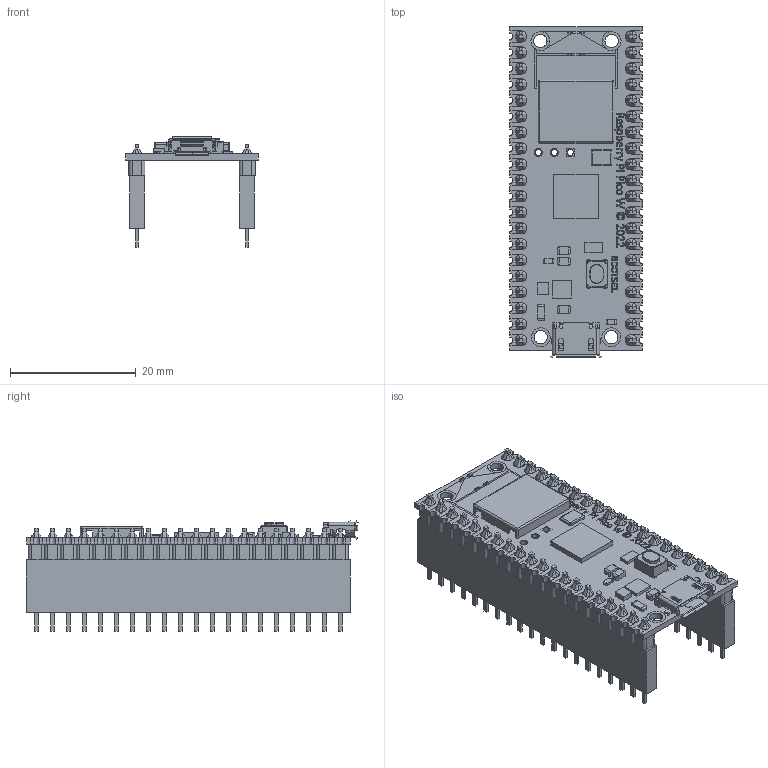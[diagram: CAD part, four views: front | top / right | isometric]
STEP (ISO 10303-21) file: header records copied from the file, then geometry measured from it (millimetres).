
FILE_DESCRIPTION(/* description */ (''),/* implementation_level */ '2;1');
FILE_NAME(/* name */ 'RaspberryPi-PicoW-Socketed',/* time_stamp */ '2023-08-14T13:53:54-04:00',/* author */ (''),/* organization */ (''),/* preprocessor_version */ 'ST-DEVELOPER v16.5',/* originating_system */ 'Rhino 7.33',/* authorisation */ '');
FILE_SCHEMA (('AUTOMOTIVE_DESIGN'));
Products named in the file (1): Document
Bounding box: 21 x 52.74 x 17.56 mm (x, y, z)
Volume: 3806.4 mm3; surface area: 8752.7 mm2
Topology: 79 solids, 79 shells, 3042 faces, 7964 edges, 5236 vertices
Faces by surface type: plane 2205, cylinder 600, bspline 237
Entity records: 99349 total; most frequent: CARTESIAN_POINT 35472, ORIENTED_EDGE 15918, EDGE_CURVE 7959, B_SPLINE_CURVE_WITH_KNOTS 5303, VERTEX_POINT 5236, EDGE_LOOP 3339, ADVANCED_FACE 3042, FACE_OUTER_BOUND 3042
